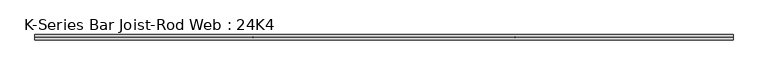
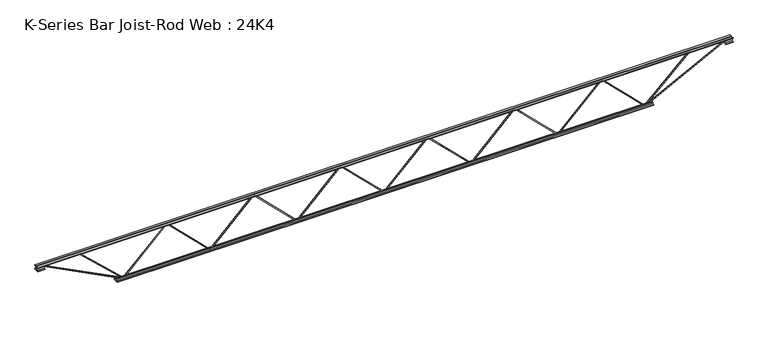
"""IFC4 building model written with IfcOpenShell, lengths in millimetres: beam geometry, K-Series Bar Joist-Rod Web : 24K4."""

import ifcopenshell
import ifcopenshell.guid

model = None  # the IFC model being written
_history = None  # IfcOwnerHistory: only IFC2X3 demands one
_inside = {}  # id of a spatial element -> (the spatial element, [elements in it])
_under = {}  # id of a project, library or spatial element -> (it, [spatial elements below it])
_declared = {}  # id of a project -> (the project, [libraries it declares])
_typed = {}  # id of a type object -> (the type object, [elements of that type])
_made_of = {}  # id of a material, layer set ... -> (it, [elements and type objects made of it])


def new_model(schema):
    """Start an empty IFC model of exactly this schema.

    Asked for "IFC4X3", IfcOpenShell would pick the latest addendum, in which some entities
    have other attributes; the version numbers below select the first issue.
    IFC2X3 requires an IfcOwnerHistory on every rooted entity: one is made here for all.
    """
    global model, _history
    if schema == "IFC4X3":
        model = ifcopenshell.file(schema_version=(4, 3, 0, 0))
    else:
        model = ifcopenshell.file(schema=schema)
    _inside.clear()
    _under.clear()
    _declared.clear()
    _typed.clear()
    _made_of.clear()
    _history = None
    if model.schema == "IFC2X3":
        org = make("IfcOrganization", Name="unknown")
        user = make(
            "IfcPersonAndOrganization",
            ThePerson=make("IfcPerson", FamilyName="unknown"),
            TheOrganization=org,
        )
        app = make(
            "IfcApplication",
            ApplicationDeveloper=org,
            Version="unknown",
            ApplicationFullName="unknown",
            ApplicationIdentifier="unknown",
        )
        _history = make(
            "IfcOwnerHistory",
            OwningUser=user,
            OwningApplication=app,
            ChangeAction="ADDED",
            CreationDate=0,
        )
    return model


def make(cls, **values):
    """One entity of the class cls with the attributes given. An attribute that is None is left unset."""
    return model.create_entity(
        cls, **{name: value for name, value in values.items() if value is not None}
    )


def rooted(cls, **values):
    """An entity with a GlobalId (a new one), such as an element, a storey or a relation."""
    return make(cls, GlobalId=ifcopenshell.guid.new(), OwnerHistory=_history, **values)


def si_unit(unit_type, name, prefix=None):
    """IfcSIUnit, for example si_unit("LENGTHUNIT", "METRE", prefix="MILLI")."""
    return make("IfcSIUnit", UnitType=unit_type, Prefix=prefix, Name=name)


def assignment(units):
    """IfcUnitAssignment: the units of a project."""
    return None if units is None else make("IfcUnitAssignment", Units=units)


def point(xyz):
    """IfcCartesianPoint."""
    return None if xyz is None else make("IfcCartesianPoint", Coordinates=xyz)


def direction(xyz):
    """IfcDirection."""
    return None if xyz is None else make("IfcDirection", DirectionRatios=xyz)


def frame(location, z_axis=None, x_axis=None):
    """IfcAxis2Placement3D, a coordinate frame: its origin and axes. An axis left out is left unset."""
    return make(
        "IfcAxis2Placement3D",
        Location=point(location),
        Axis=direction(z_axis),
        RefDirection=direction(x_axis),
    )


def origin():
    """The frame at (0, 0, 0) with its axes left unset."""
    return frame((0.0, 0.0, 0.0))


def place(relative_to, where):
    """IfcLocalPlacement: puts the frame where relative to a parent placement (None: the world)."""
    return make(
        "IfcLocalPlacement", PlacementRelTo=relative_to, RelativePlacement=where
    )


def context(
    kind, dimensions, precision=None, world=None, true_north=None, identifier=None
):
    """IfcGeometricRepresentationContext, for example the 3D "Model" context."""
    return make(
        "IfcGeometricRepresentationContext",
        ContextIdentifier=identifier,
        ContextType=kind,
        CoordinateSpaceDimension=dimensions,
        Precision=precision,
        WorldCoordinateSystem=world,
        TrueNorth=true_north,
    )


def project(units=None, contexts=None):
    """IfcProject with its units and contexts."""
    return rooted(
        "IfcProject",
        Name="project",
        RepresentationContexts=contexts,
        UnitsInContext=assignment(units),
    )


def spatial(cls, under=None, at=None, **own):
    """A site, building, storey or space (cls), placed at a placement, below another one or the project."""
    s = rooted(cls, ObjectPlacement=at, **own)
    if under is not None:
        _under.setdefault(under.id(), (under, []))[1].append(s)
    return s


def polyline(points):
    """IfcPolyline through the points."""
    return make("IfcPolyline", Points=[point(p) for p in points])


def outline(outer, holes=None, kind="AREA"):
    """IfcArbitraryClosedProfileDef: a profile drawn as a closed curve; with holes, ...WithVoids."""
    if holes is None:
        return make("IfcArbitraryClosedProfileDef", ProfileType=kind, OuterCurve=outer)
    return make(
        "IfcArbitraryProfileDefWithVoids",
        ProfileType=kind,
        OuterCurve=outer,
        InnerCurves=holes,
    )


def extrude(swept, where, along, depth):
    """IfcExtrudedAreaSolid: the profile swept, set in the frame where, extruded along a direction by depth."""
    return make(
        "IfcExtrudedAreaSolid",
        SweptArea=swept,
        Position=where,
        ExtrudedDirection=direction(along),
        Depth=depth,
    )


def shape(context_of_items, identifier, shape_type, items):
    """IfcShapeRepresentation: the items that make up one representation, for example the "Body"."""
    return make(
        "IfcShapeRepresentation",
        ContextOfItems=context_of_items,
        RepresentationIdentifier=identifier,
        RepresentationType=shape_type,
        Items=items,
    )


def source(mapping_origin, context_of_items, identifier, shape_type, items):
    """IfcRepresentationMap: a shape defined once, which mapped items show again and again."""
    return make(
        "IfcRepresentationMap",
        MappingOrigin=mapping_origin,
        MappedRepresentation=shape(context_of_items, identifier, shape_type, items),
    )


def transform(
    local_origin,
    x_axis=None,
    y_axis=None,
    z_axis=None,
    scale=None,
    scale2=None,
    scale3=None,
    uniform=True,
):
    """IfcCartesianTransformationOperator3D, or its non-uniform kind. x_axis, y_axis, z_axis: its Axis1, 2, 3."""
    if uniform:
        return make(
            "IfcCartesianTransformationOperator3D",
            Axis1=direction(x_axis),
            Axis2=direction(y_axis),
            LocalOrigin=point(local_origin),
            Scale=scale,
            Axis3=direction(z_axis),
        )
    return make(
        "IfcCartesianTransformationOperator3DnonUniform",
        Axis1=direction(x_axis),
        Axis2=direction(y_axis),
        LocalOrigin=point(local_origin),
        Scale=scale,
        Axis3=direction(z_axis),
        Scale2=scale2,
        Scale3=scale3,
    )


def mapped(mapping_source, mapping_target):
    """IfcMappedItem: shows the shape of a source again, moved by a transform."""
    return make(
        "IfcMappedItem", MappingSource=mapping_source, MappingTarget=mapping_target
    )


def made_of(thing, what):
    """Note that an element or type object is made of a material, layer set ...; save() writes the relation."""
    if what is not None:
        _made_of.setdefault(what.id(), (what, []))[1].append(thing)
    return thing


def element(
    cls,
    number,
    at=None,
    inside=None,
    cuts=None,
    type_object=None,
    material=None,
    context=None,
    identifier="Body",
    shape_type=None,
    held_by="IfcProductDefinitionShape",
    body=None,
    shapes=None,
    **own,
):
    """One element of the class cls, such as IfcWall. Its Tag is "e" and its number.

    at: its placement. inside: the storey or other place that contains it. cuts: it is an
    opening in that element (IfcRelVoidsElement). A single representation is given by context,
    identifier, shape_type and body (its items); several are given by shapes. held_by: the class
    of the entity that holds the representations. save() writes the other relations.
    """
    e = rooted(cls, Tag="e%d" % number, ObjectPlacement=at, **own)
    if body is not None:
        shapes = [shape(context, identifier, shape_type, body)]
    if shapes is not None:
        e.Representation = make(held_by, Representations=shapes)
    if inside is not None:
        _inside.setdefault(inside.id(), (inside, []))[1].append(e)
    if cuts is not None:
        rooted(
            "IfcRelVoidsElement", RelatingBuildingElement=cuts, RelatedOpeningElement=e
        )
    if type_object is not None:
        _typed.setdefault(type_object.id(), (type_object, []))[1].append(e)
    return made_of(e, material)


def aggregate(whole, parts):
    """IfcRelAggregates: a whole, such as a stair, and the parts it consists of."""
    return rooted("IfcRelAggregates", RelatingObject=whole, RelatedObjects=parts)


def save(model, path):
    """Write the relations noted so far, then the file.

    IfcRelAggregates (storeys below a building ...), IfcRelContainedInSpatialStructure (elements
    in a storey), IfcRelDefinesByType, IfcRelAssociatesMaterial and IfcRelDeclares: one each for
    every whole, place, type object, material and project.
    """
    for whole, parts in _under.values():
        aggregate(whole, parts)
    for where, things in _inside.values():
        rooted(
            "IfcRelContainedInSpatialStructure",
            RelatedElements=things,
            RelatingStructure=where,
        )
    for kind, things in _typed.values():
        rooted("IfcRelDefinesByType", RelatedObjects=things, RelatingType=kind)
    for what, things in _made_of.values():
        rooted("IfcRelAssociatesMaterial", RelatedObjects=things, RelatingMaterial=what)
    for by, libraries in _declared.values():
        rooted("IfcRelDeclares", RelatingContext=by, RelatedDefinitions=libraries)
    model.write(path)


def k_series_bar_joist_rod_web_24k4_0bbdf4ea(model_context):
    return source(origin(), model_context, "Body", "SweptSolid", [
        extrude(outline(polyline([(-293.6875, 1223.16875), (-303.2125, 1223.16875), (-303.2125, 1228.2971284), (293.6875, 1833.5315034), (293.6875, 1835.9747466), (-303.2125, 2441.2091216), (-303.2125, 2446.3375), (-293.6875, 2446.3375), (-293.6875, 2445.1158784), (303.2125, 1839.8815034), (303.2125, 1829.6247466), (-293.6875, 1224.3903716), (-293.6875, 1223.16875)])), frame((0.0, -4.7625, 0.0), z_axis=(0.0, 1.0, 0.0), x_axis=(0.0, 0.0, 1.0)), (0.0, 0.0, 1.0), 9.525),
        extrude(outline(polyline([(-293.6875, 0.0), (-303.2125, 0.0), (-303.2125, 5.1283784), (293.6875, 610.3627534), (293.6875, 612.8059966), (-303.2125, 1218.0403716), (-303.2125, 1223.16875), (-293.6875, 1223.16875), (-293.6875, 1221.9471284), (303.2125, 616.7127534), (303.2125, 606.4559966), (-293.6875, 1.2216216), (-293.6875, 0.0)])), frame((0.0, -4.7625, 0.0), z_axis=(0.0, 1.0, 0.0), x_axis=(0.0, 0.0, 1.0)), (0.0, 0.0, 1.0), 9.525),
        extrude(outline(polyline([(-293.6875, -1223.16875), (-303.2125, -1223.16875), (-303.2125, -1218.0403716), (293.6875, -612.8059966), (293.6875, -610.3627534), (-303.2125, -5.1283784), (-303.2125, 0.0), (-293.6875, 0.0), (-293.6875, -1.2216216), (303.2125, -606.4559966), (303.2125, -616.7127534), (-293.6875, -1221.9471284), (-293.6875, -1223.16875)])), frame((0.0, -4.7625, 0.0), z_axis=(0.0, 1.0, 0.0), x_axis=(0.0, 0.0, 1.0)), (0.0, 0.0, 1.0), 9.525),
        extrude(outline(polyline([(-293.6875, -2446.3375), (-303.2125, -2446.3375), (-303.2125, -2441.2091216), (293.6875, -1835.9747466), (293.6875, -1833.5315034), (-303.2125, -1228.2971284), (-303.2125, -1223.16875), (-293.6875, -1223.16875), (-293.6875, -1224.3903716), (303.2125, -1829.6247466), (303.2125, -1839.8815034), (-293.6875, -2445.1158784), (-293.6875, -2446.3375)])), frame((0.0, -4.7625, 0.0), z_axis=(0.0, 1.0, 0.0), x_axis=(0.0, 0.0, 1.0)), (0.0, 0.0, 1.0), 9.525),
        extrude(outline(polyline([(-293.6875, 2446.3375), (-303.2125, 2446.3375), (-303.2125, 2451.4658784), (293.6875, 3056.7002534), (293.6875, 3059.1434966), (-303.2125, 3664.3778716), (-303.2125, 3669.50625), (-293.6875, 3669.50625), (-293.6875, 3668.2846284), (303.2125, 3063.0502534), (303.2125, 3052.7934966), (-293.6875, 2447.5591216), (-293.6875, 2446.3375)])), frame((0.0, -4.7625, 0.0), z_axis=(0.0, 1.0, 0.0), x_axis=(0.0, 0.0, 1.0)), (0.0, 0.0, 1.0), 9.525),
        extrude(outline(polyline([(-293.6875, -3669.50625), (-303.2125, -3669.50625), (-303.2125, -3664.3778716), (293.6875, -3059.1434966), (293.6875, -3056.7002534), (-303.2125, -2451.4658784), (-303.2125, -2446.3375), (-293.6875, -2446.3375), (-293.6875, -2447.5591216), (303.2125, -3052.7934966), (303.2125, -3063.0502534), (-293.6875, -3668.2846284), (-293.6875, -3669.50625)])), frame((0.0, -4.7625, 0.0), z_axis=(0.0, 1.0, 0.0), x_axis=(0.0, 0.0, 1.0)), (0.0, 0.0, 1.0), 9.525),
        extrude(outline(polyline([(4.7625, 304.8), (36.5125, 304.8), (36.5125, 298.45), (11.1125, 298.45), (11.1125, 273.05), (4.7625, 273.05), (4.7625, 304.8)])), frame((-4888.70625, 0.0, 0.0), z_axis=(1.0, 0.0, 0.0), x_axis=(0.0, 1.0, 0.0)), (0.0, 0.0, 1.0), 9777.4125),
        extrude(outline(polyline([(-4.7625, 304.8), (-4.7625, 273.05), (-11.1125, 273.05), (-11.1125, 298.45), (-36.5125, 298.45), (-36.5125, 304.8), (-4.7625, 304.8)])), frame((-4888.70625, 0.0, 0.0), z_axis=(1.0, 0.0, 0.0), x_axis=(0.0, 1.0, 0.0)), (0.0, 0.0, 1.0), 9777.4125),
        extrude(outline(polyline([(-4.7625, 241.3), (-36.5125, 241.3), (-36.5125, 247.65), (-11.1125, 247.65), (-11.1125, 273.05), (-4.7625, 273.05), (-4.7625, 241.3)])), frame((-4888.70625, 0.0, 0.0), z_axis=(1.0, 0.0, 0.0), x_axis=(0.0, 1.0, 0.0)), (0.0, 0.0, 1.0), 101.6),
        extrude(outline(polyline([(36.5125, 241.3), (4.7625, 241.3), (4.7625, 273.05), (11.1125, 273.05), (11.1125, 247.65), (36.5125, 247.65), (36.5125, 241.3)])), frame((-4888.70625, 0.0, 0.0), z_axis=(1.0, 0.0, 0.0), x_axis=(0.0, 1.0, 0.0)), (0.0, 0.0, 1.0), 101.6),
        extrude(outline(polyline([(4.7625, 241.3), (4.7625, 273.05), (11.1125, 273.05), (11.1125, 247.65), (36.5125, 247.65), (36.5125, 241.3), (4.7625, 241.3)])), frame((4787.10625, 0.0, 0.0), z_axis=(1.0, 0.0, 0.0), x_axis=(0.0, 1.0, 0.0)), (0.0, 0.0, 1.0), 101.6),
        extrude(outline(polyline([(-4.7625, 241.3), (-36.5125, 241.3), (-36.5125, 247.65), (-11.1125, 247.65), (-11.1125, 273.05), (-4.7625, 273.05), (-4.7625, 241.3)])), frame((4787.10625, 0.0, 0.0), z_axis=(1.0, 0.0, 0.0), x_axis=(0.0, 1.0, 0.0)), (0.0, 0.0, 1.0), 101.6),
        extrude(outline(polyline([(4.7625, -304.8), (4.7625, -273.05), (11.1125, -273.05), (11.1125, -298.45), (36.5125, -298.45), (36.5125, -304.8), (4.7625, -304.8)])), frame((-3771.10625, 0.0, 0.0), z_axis=(1.0, 0.0, 0.0), x_axis=(0.0, 1.0, 0.0)), (0.0, 0.0, 1.0), 7542.2125),
        extrude(outline(polyline([(-4.7625, -304.8), (-36.5125, -304.8), (-36.5125, -298.45), (-11.1125, -298.45), (-11.1125, -273.05), (-4.7625, -273.05), (-4.7625, -304.8)])), frame((-3771.10625, 0.0, 0.0), z_axis=(1.0, 0.0, 0.0), x_axis=(0.0, 1.0, 0.0)), (0.0, 0.0, 1.0), 7542.2125),
        extrude(outline(polyline([(0.0, -9.525), (0.0, 0.0), (1255.2457966, 0.0), (1255.2457966, -9.525), (0.0, -9.525)])), frame((-4789.2745654, 4.7625, 268.8097388), z_axis=(0.4552893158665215, 0.0, 0.8903435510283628), x_axis=(0.8903435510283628, 0.0, -0.4552893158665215)), (0.0, 0.0, 1.0), 9.525),
        extrude(outline(polyline([(0.0, -9.525), (0.0, 0.0), (837.0470105, 0.0), (837.0470105, -9.525), (0.0, -9.525)])), frame((-4284.3422569, 4.7625, 269.5703023), z_axis=(0.6827573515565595, 0.0, 0.7306451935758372), x_axis=(0.7306451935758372, 0.0, -0.6827573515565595)), (0.0, 0.0, 1.0), 9.525),
        extrude(outline(polyline([(0.0, -9.525), (0.0, 0.0), (1255.2457966, 0.0), (1255.2457966, -9.525), (0.0, -9.525)])), frame((4789.2745654, -4.7625, 268.8097388), z_axis=(-0.4552893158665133, 0.0, 0.890343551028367), x_axis=(-0.890343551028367, 0.0, -0.4552893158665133)), (0.0, 0.0, 1.0), 9.525),
        extrude(outline(polyline([(0.0, -9.525), (0.0, 0.0), (837.0470105, 0.0), (837.0470105, -9.525), (0.0, -9.525)])), frame((4284.3422569, -4.7625, 269.5703023), z_axis=(-0.6827573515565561, 0.0, 0.7306451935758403), x_axis=(-0.7306451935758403, 0.0, -0.6827573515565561)), (0.0, 0.0, 1.0), 9.525),
    ])


if __name__ == "__main__":
    model = new_model("IFC4")
    model_context = context("Model", 3, world=origin())
    ifc_project = project(units=[si_unit("LENGTHUNIT", "METRE", prefix="MILLI")], contexts=[model_context])
    site = spatial("IfcSite", under=ifc_project)
    building = spatial("IfcBuilding", under=site)
    placement = place(None, origin())
    k_series_bar_joist_rod_web_24k4_shape = k_series_bar_joist_rod_web_24k4_0bbdf4ea(model_context)
    element("IfcBeam", 1, ObjectType="K-Series Bar Joist-Rod Web : 24K4", at=placement, inside=building, context=model_context, shape_type="MappedRepresentation", body=[
        mapped(k_series_bar_joist_rod_web_24k4_shape, transform((0.0, 0.0, 0.0), x_axis=(1.0, 0.0, 0.0), y_axis=(0.0, 1.0, 0.0), z_axis=(0.0, 0.0, 1.0))),
    ])
    save(model, "model.ifc")
